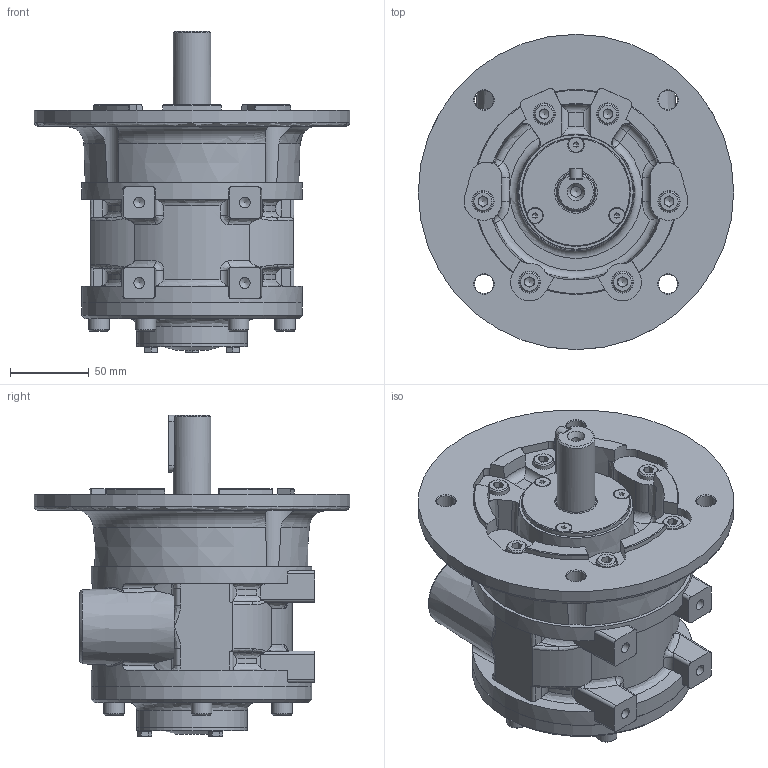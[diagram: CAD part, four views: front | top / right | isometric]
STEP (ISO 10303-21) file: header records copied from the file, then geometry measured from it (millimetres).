
FILE_DESCRIPTION (( 'STEP AP214' ), '1' );
FILE_NAME ('VS8C Defeature.STEP', '2022-06-14T11:15:18', ( '' ), ( '' ), 'SwSTEP 2.0', 'SolidWorks 2020', '' );
FILE_SCHEMA (( 'AUTOMOTIVE_DESIGN' ));
Length unit declared in the file: millimetre
Products named in the file (1): VS8C Defeature
Bounding box: 200 x 200 x 203.8 mm (x, y, z)
Volume: 2035790.8 mm3; surface area: 178238.3 mm2
Topology: 1 solids, 1 shells, 673 faces, 1688 edges, 1044 vertices
Faces by surface type: plane 349, cylinder 142, cone 97, bspline 67, torus 13, sphere 5
Full cylindrical faces by diameter (mm): 6.8 x5, 8 x3, 9.64 x3, 12 x4, 13 x12, 14 x6, 24 x3, 25 x1, 27 x1, 30.291 x2, 69 x2, 70 x2, 138 x1, 140 x2, 200 x1
Entity records: 27570 total; most frequent: CARTESIAN_POINT 9692, ORIENTED_EDGE 3042, DIRECTION 2844, EDGE_CURVE 1521, AXIS2_PLACEMENT_3D 1074, VERTEX_POINT 987, EDGE_LOOP 820, FACE_OUTER_BOUND 723
